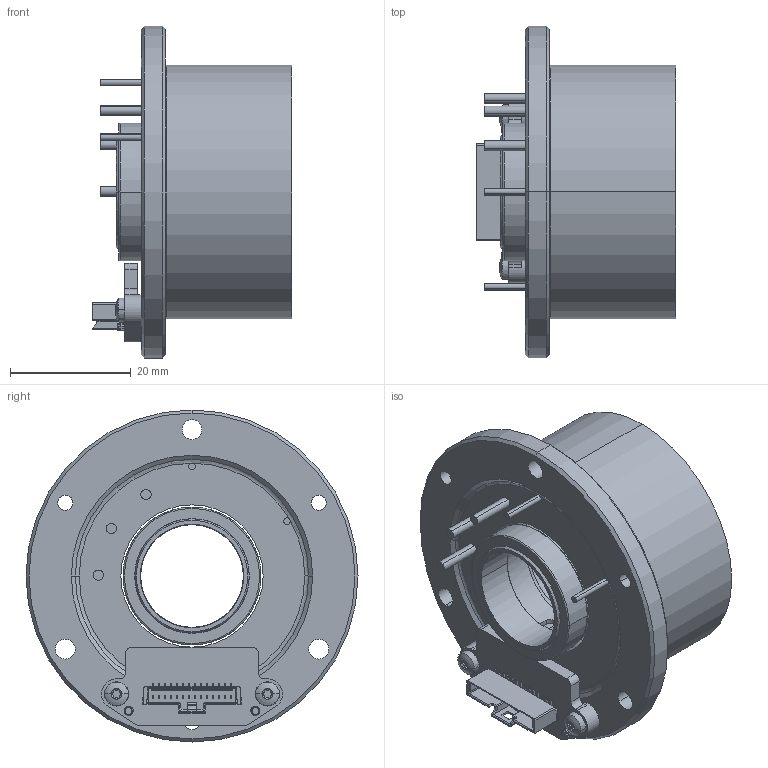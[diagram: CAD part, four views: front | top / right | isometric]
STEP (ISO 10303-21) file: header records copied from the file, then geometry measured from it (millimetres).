
FILE_DESCRIPTION((''),'2;1');
FILE_NAME('EC_FRAMELESS_DT38M_TS_SW0001','2024-05-08T15:01:02',('mmagvisi'),(''),'CREO PARAMETRIC BY PTC INC, 2023092','CREO PARAMETRIC BY PTC INC, 2023092','');
FILE_SCHEMA(('CONFIG_CONTROL_DESIGN','SHAPE_APPEARANCE_LAYERS_GROUPS'));
Length unit declared in the file: millimetre
Products named in the file (1): EC_FRAMELESS_DT38M_TS_SW0001
Bounding box: 33.11 x 55 x 55 mm (x, y, z)
Volume: 31495.2 mm3; surface area: 16193.7 mm2
Topology: 3 solids, 3 shells, 1054 faces, 2859 edges, 1856 vertices
Faces by surface type: plane 742, cylinder 204, cone 52, torus 52, sphere 4
Entity records: 43578 total; most frequent: CARTESIAN_POINT 8675, ORIENTED_EDGE 5718, DIRECTION 5001, PRESENTATION_STYLE_ASSIGNMENT 2862, STYLED_ITEM 2862, CURVE_STYLE 2859, EDGE_CURVE 2859, VECTOR 1951
